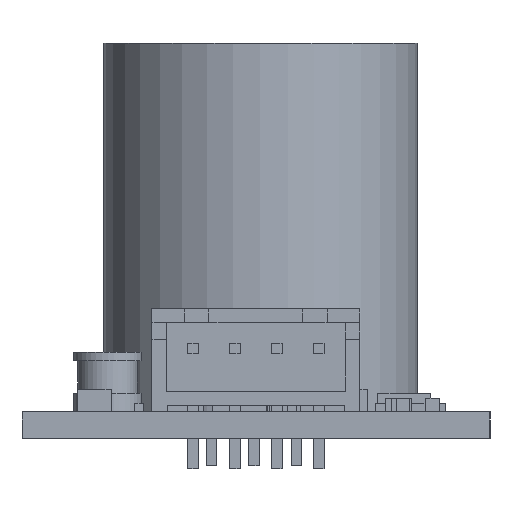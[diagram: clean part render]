
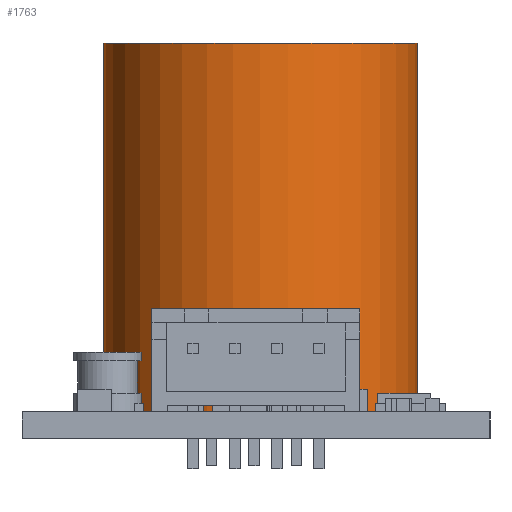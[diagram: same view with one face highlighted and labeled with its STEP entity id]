
A CAD part, left-side view. The second image highlights one B-rep face of the part: STEP entity #1763.
In plain terms, the highlighted cylindrical face has radius 9.35 mm (diameter 18.7 mm), a full revolution.
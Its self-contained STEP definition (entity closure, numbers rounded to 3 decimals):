
#1763 = ADVANCED_FACE('',(#1764),#1778,.T.);
#1764 = FACE_BOUND('',#1765,.T.);
#1765 = EDGE_LOOP('',(#1766,#1796,#1826,#1827));
#1766 = ORIENTED_EDGE('',*,*,#1767,.F.);
#1767 = EDGE_CURVE('',#1768,#1770,#1772,.T.);
#1768 = VERTEX_POINT('',#1769);
#1769 = CARTESIAN_POINT('',(9.35,0.,0.));
#1770 = VERTEX_POINT('',#1771);
#1771 = CARTESIAN_POINT('',(9.35,0.,22.));
#1772 = SEAM_CURVE('',#1773,(#1777,#1789),.PCURVE_S1.);
#1773 = LINE('',#1774,#1775);
#1774 = CARTESIAN_POINT('',(9.35,0.,0.));
#1775 = VECTOR('',#1776,1.);
#1776 = DIRECTION('',(0.,0.,1.));
#1777 = PCURVE('',#1778,#1783);
#1778 = CYLINDRICAL_SURFACE('',#1779,9.35);
#1779 = AXIS2_PLACEMENT_3D('',#1780,#1781,#1782);
#1780 = CARTESIAN_POINT('',(0.,0.,0.));
#1781 = DIRECTION('',(0.,0.,-1.));
#1782 = DIRECTION('',(1.,0.,0.));
#1783 = DEFINITIONAL_REPRESENTATION('',(#1784),#1788);
#1784 = LINE('',#1785,#1786);
#1785 = CARTESIAN_POINT('',(6.283,0.));
#1786 = VECTOR('',#1787,1.);
#1787 = DIRECTION('',(0.,-1.));
#1788 = ( GEOMETRIC_REPRESENTATION_CONTEXT(2) 
PARAMETRIC_REPRESENTATION_CONTEXT() REPRESENTATION_CONTEXT('2D SPACE',''
  ) );
#1789 = PCURVE('',#1778,#1790);
#1790 = DEFINITIONAL_REPRESENTATION('',(#1791),#1795);
#1791 = LINE('',#1792,#1793);
#1792 = CARTESIAN_POINT('',(0.,0.));
#1793 = VECTOR('',#1794,1.);
#1794 = DIRECTION('',(0.,-1.));
#1795 = ( GEOMETRIC_REPRESENTATION_CONTEXT(2) 
PARAMETRIC_REPRESENTATION_CONTEXT() REPRESENTATION_CONTEXT('2D SPACE',''
  ) );
#1796 = ORIENTED_EDGE('',*,*,#1797,.T.);
#1797 = EDGE_CURVE('',#1768,#1768,#1798,.T.);
#1798 = SURFACE_CURVE('',#1799,(#1804,#1810),.PCURVE_S1.);
#1799 = CIRCLE('',#1800,9.35);
#1800 = AXIS2_PLACEMENT_3D('',#1801,#1802,#1803);
#1801 = CARTESIAN_POINT('',(0.,0.,0.));
#1802 = DIRECTION('',(0.,0.,1.));
#1803 = DIRECTION('',(1.,0.,0.));
#1804 = PCURVE('',#1778,#1805);
#1805 = DEFINITIONAL_REPRESENTATION('',(#1806),#1809);
#1806 = B_SPLINE_CURVE_WITH_KNOTS('',1,(#1807,#1808),.UNSPECIFIED.,.F.,
  .F.,(2,2),(0.,6.283),.PIECEWISE_BEZIER_KNOTS.);
#1807 = CARTESIAN_POINT('',(6.283,0.));
#1808 = CARTESIAN_POINT('',(0.,0.));
#1809 = ( GEOMETRIC_REPRESENTATION_CONTEXT(2) 
PARAMETRIC_REPRESENTATION_CONTEXT() REPRESENTATION_CONTEXT('2D SPACE',''
  ) );
#1810 = PCURVE('',#1811,#1816);
#1811 = PLANE('',#1812);
#1812 = AXIS2_PLACEMENT_3D('',#1813,#1814,#1815);
#1813 = CARTESIAN_POINT('',(9.35,0.,0.));
#1814 = DIRECTION('',(0.,0.,-1.));
#1815 = DIRECTION('',(-1.,0.,0.));
#1816 = DEFINITIONAL_REPRESENTATION('',(#1817),#1825);
#1817 = ( BOUNDED_CURVE() B_SPLINE_CURVE(2,(#1818,#1819,#1820,#1821,
#1822,#1823,#1824),.UNSPECIFIED.,.F.,.F.) B_SPLINE_CURVE_WITH_KNOTS((1,2
    ,2,2,2,1),(-2.094,0.,2.094,4.189,
6.283,8.378),.UNSPECIFIED.) CURVE() 
GEOMETRIC_REPRESENTATION_ITEM() RATIONAL_B_SPLINE_CURVE((1.,0.5,1.,0.5,
1.,0.5,1.)) REPRESENTATION_ITEM('') );
#1818 = CARTESIAN_POINT('',(0.,0.));
#1819 = CARTESIAN_POINT('',(0.,16.195));
#1820 = CARTESIAN_POINT('',(14.025,8.097));
#1821 = CARTESIAN_POINT('',(28.05,0.));
#1822 = CARTESIAN_POINT('',(14.025,-8.097));
#1823 = CARTESIAN_POINT('',(0.,-16.195));
#1824 = CARTESIAN_POINT('',(0.,0.));
#1825 = ( GEOMETRIC_REPRESENTATION_CONTEXT(2) 
PARAMETRIC_REPRESENTATION_CONTEXT() REPRESENTATION_CONTEXT('2D SPACE',''
  ) );
#1826 = ORIENTED_EDGE('',*,*,#1767,.T.);
#1827 = ORIENTED_EDGE('',*,*,#1828,.F.);
#1828 = EDGE_CURVE('',#1770,#1770,#1829,.T.);
#1829 = SURFACE_CURVE('',#1830,(#1835,#1841),.PCURVE_S1.);
#1830 = CIRCLE('',#1831,9.35);
#1831 = AXIS2_PLACEMENT_3D('',#1832,#1833,#1834);
#1832 = CARTESIAN_POINT('',(0.,0.,22.));
#1833 = DIRECTION('',(0.,0.,1.));
#1834 = DIRECTION('',(1.,0.,0.));
#1835 = PCURVE('',#1778,#1836);
#1836 = DEFINITIONAL_REPRESENTATION('',(#1837),#1840);
#1837 = B_SPLINE_CURVE_WITH_KNOTS('',1,(#1838,#1839),.UNSPECIFIED.,.F.,
  .F.,(2,2),(0.,6.283),.PIECEWISE_BEZIER_KNOTS.);
#1838 = CARTESIAN_POINT('',(6.283,-22.));
#1839 = CARTESIAN_POINT('',(0.,-22.));
#1840 = ( GEOMETRIC_REPRESENTATION_CONTEXT(2) 
PARAMETRIC_REPRESENTATION_CONTEXT() REPRESENTATION_CONTEXT('2D SPACE',''
  ) );
#1841 = PCURVE('',#1842,#1847);
#1842 = PLANE('',#1843);
#1843 = AXIS2_PLACEMENT_3D('',#1844,#1845,#1846);
#1844 = CARTESIAN_POINT('',(9.35,0.,22.));
#1845 = DIRECTION('',(0.,0.,-1.));
#1846 = DIRECTION('',(-1.,0.,0.));
#1847 = DEFINITIONAL_REPRESENTATION('',(#1848),#1856);
#1848 = ( BOUNDED_CURVE() B_SPLINE_CURVE(2,(#1849,#1850,#1851,#1852,
#1853,#1854,#1855),.UNSPECIFIED.,.F.,.F.) B_SPLINE_CURVE_WITH_KNOTS((1,2
    ,2,2,2,1),(-2.094,0.,2.094,4.189,
6.283,8.378),.UNSPECIFIED.) CURVE() 
GEOMETRIC_REPRESENTATION_ITEM() RATIONAL_B_SPLINE_CURVE((1.,0.5,1.,0.5,
1.,0.5,1.)) REPRESENTATION_ITEM('') );
#1849 = CARTESIAN_POINT('',(0.,0.));
#1850 = CARTESIAN_POINT('',(0.,16.195));
#1851 = CARTESIAN_POINT('',(14.025,8.097));
#1852 = CARTESIAN_POINT('',(28.05,0.));
#1853 = CARTESIAN_POINT('',(14.025,-8.097));
#1854 = CARTESIAN_POINT('',(0.,-16.195));
#1855 = CARTESIAN_POINT('',(0.,0.));
#1856 = ( GEOMETRIC_REPRESENTATION_CONTEXT(2) 
PARAMETRIC_REPRESENTATION_CONTEXT() REPRESENTATION_CONTEXT('2D SPACE',''
  ) );
